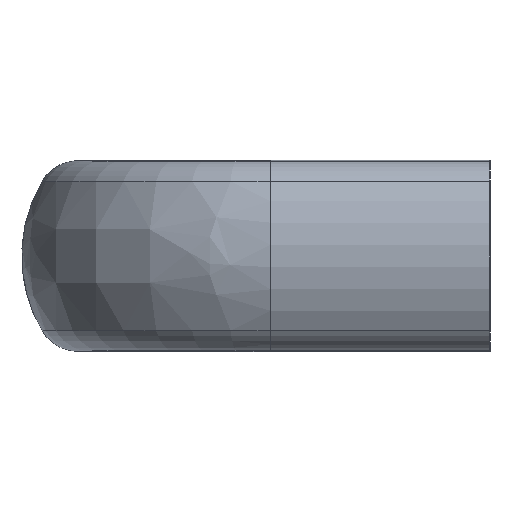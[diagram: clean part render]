
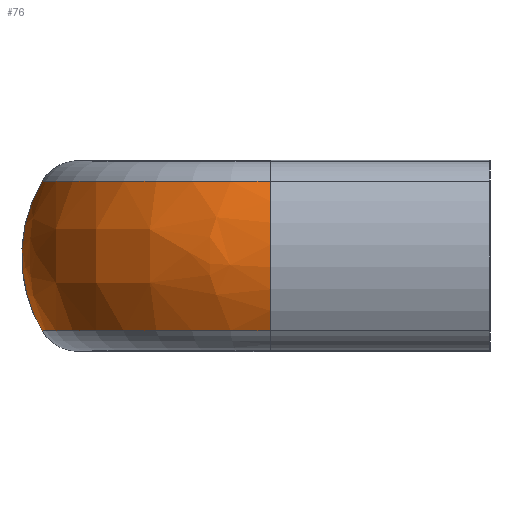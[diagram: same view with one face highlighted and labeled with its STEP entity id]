
A CAD part, left-side view. The second image highlights one B-rep face of the part: STEP entity #76.
In plain terms, the highlighted free-form (B-spline) face has degree [3, 3] with [4, 4] control points.
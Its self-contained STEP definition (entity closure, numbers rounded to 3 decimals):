
#76 = ADVANCED_FACE( '', ( #131 ), #132, .T. );
#131 = FACE_OUTER_BOUND( '', #243, .T. );
#132 = ( BOUNDED_SURFACE(  )B_SPLINE_SURFACE( 3, 3, ( ( #246, #247, #248, #249 ), ( #250, #251, #252, #253 ), ( #254, #255, #256, #257 ), ( #258, #259, #260, #261 ) ), .UNSPECIFIED., .F., .F., .F. )B_SPLINE_SURFACE_WITH_KNOTS( ( 4, 4 ), ( 4, 4 ), ( 1.571, 3.142 ), ( -0.533, 0.533 ), .UNSPECIFIED. )GEOMETRIC_REPRESENTATION_ITEM(  )RATIONAL_B_SPLINE_SURFACE( ( ( 1., 0.805, 0.805, 1. ), ( 0.907, 0.73, 0.73, 0.907 ), ( 0.907, 0.73, 0.73, 0.907 ), ( 1., 0.805, 0.805, 1. ) ) )REPRESENTATION_ITEM( '' )SURFACE(  ) );
#243 = EDGE_LOOP( '', ( #404, #405, #406, #407 ) );
#246 = CARTESIAN_POINT( '', ( -40.5, 46.852, 7.826 ) );
#247 = CARTESIAN_POINT( '', ( -54.472, 46.852, 7.826 ) );
#248 = CARTESIAN_POINT( '', ( -64.352, 36.972, 7.826 ) );
#249 = CARTESIAN_POINT( '', ( -64.352, 23., 7.826 ) );
#250 = CARTESIAN_POINT( '', ( -40.5, 49.775, 2.875 ) );
#251 = CARTESIAN_POINT( '', ( -56.185, 49.775, 2.875 ) );
#252 = CARTESIAN_POINT( '', ( -67.275, 38.685, 2.875 ) );
#253 = CARTESIAN_POINT( '', ( -67.275, 23., 2.875 ) );
#254 = CARTESIAN_POINT( '', ( -40.5, 49.775, -2.875 ) );
#255 = CARTESIAN_POINT( '', ( -56.185, 49.775, -2.875 ) );
#256 = CARTESIAN_POINT( '', ( -67.275, 38.685, -2.875 ) );
#257 = CARTESIAN_POINT( '', ( -67.275, 23., -2.875 ) );
#258 = CARTESIAN_POINT( '', ( -40.5, 46.852, -7.826 ) );
#259 = CARTESIAN_POINT( '', ( -54.472, 46.852, -7.826 ) );
#260 = CARTESIAN_POINT( '', ( -64.352, 36.972, -7.826 ) );
#261 = CARTESIAN_POINT( '', ( -64.352, 23., -7.826 ) );
#404 = ORIENTED_EDGE( '', *, *, #799, .T. );
#405 = ORIENTED_EDGE( '', *, *, #800, .F. );
#406 = ORIENTED_EDGE( '', *, *, #801, .F. );
#407 = ORIENTED_EDGE( '', *, *, #802, .T. );
#799 = EDGE_CURVE( '', #921, #925, #927, .T. );
#800 = EDGE_CURVE( '', #928, #925, #929, .T. );
#801 = EDGE_CURVE( '', #930, #928, #931, .T. );
#802 = EDGE_CURVE( '', #930, #921, #932, .T. );
#921 = VERTEX_POINT( '', #1118 );
#925 = VERTEX_POINT( '', #1127 );
#927 = CIRCLE( '', #1129, 23.852 );
#928 = VERTEX_POINT( '', #1130 );
#929 = CIRCLE( '', #1131, 15.391 );
#930 = VERTEX_POINT( '', #1132 );
#931 = CIRCLE( '', #1133, 23.852 );
#932 = B_SPLINE_CURVE_WITH_KNOTS( '', 3, ( #1134, #1135, #1136, #1137, #1138, #1139, #1140, #1141, #1142, #1143 ), .UNSPECIFIED., .F., .F., ( 4, 2, 2, 2, 4 ), ( 0., 0.25, 0.5, 0.75, 1. ), .UNSPECIFIED. );
#1118 = CARTESIAN_POINT( '', ( -40.5, 46.852, -7.833 ) );
#1127 = CARTESIAN_POINT( '', ( -64.352, 23., -7.826 ) );
#1129 = AXIS2_PLACEMENT_3D( '', #1398, #1399, #1400 );
#1130 = CARTESIAN_POINT( '', ( -64.352, 23., 7.826 ) );
#1131 = AXIS2_PLACEMENT_3D( '', #1401, #1402, #1403 );
#1132 = CARTESIAN_POINT( '', ( -40.5, 46.851, 7.834 ) );
#1133 = AXIS2_PLACEMENT_3D( '', #1404, #1405, #1406 );
#1134 = CARTESIAN_POINT( '', ( -40.5, 46.852, 7.826 ) );
#1135 = CARTESIAN_POINT( '', ( -40.5, 47.548, 6.648 ) );
#1136 = CARTESIAN_POINT( '', ( -40.5, 48.085, 5.376 ) );
#1137 = CARTESIAN_POINT( '', ( -40.5, 48.806, 2.736 ) );
#1138 = CARTESIAN_POINT( '', ( -40.5, 48.99, 1.368 ) );
#1139 = CARTESIAN_POINT( '', ( -40.5, 48.99, -1.368 ) );
#1140 = CARTESIAN_POINT( '', ( -40.5, 48.806, -2.736 ) );
#1141 = CARTESIAN_POINT( '', ( -40.5, 48.085, -5.376 ) );
#1142 = CARTESIAN_POINT( '', ( -40.5, 47.548, -6.648 ) );
#1143 = CARTESIAN_POINT( '', ( -40.5, 46.852, -7.826 ) );
#1398 = CARTESIAN_POINT( '', ( -40.5, 23., -7.826 ) );
#1399 = DIRECTION( '', ( 0., 0., 1. ) );
#1400 = DIRECTION( '', ( 1., 0., 0. ) );
#1401 = CARTESIAN_POINT( '', ( -51.099, 23., 0. ) );
#1402 = DIRECTION( '', ( 0., -1., 0. ) );
#1403 = DIRECTION( '', ( 0., 0., 1. ) );
#1404 = CARTESIAN_POINT( '', ( -40.5, 23., 7.826 ) );
#1405 = DIRECTION( '', ( 0., 0., 1. ) );
#1406 = DIRECTION( '', ( 1., 0., 0. ) );
